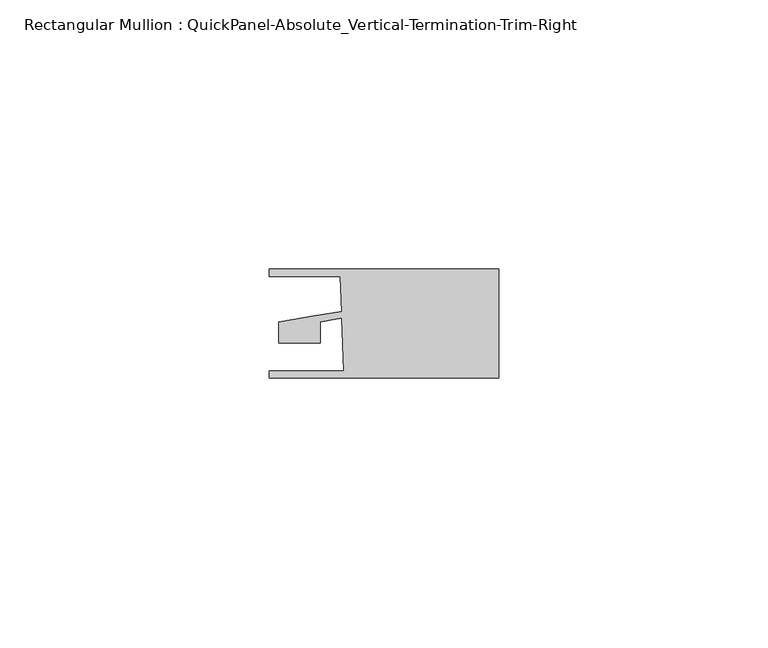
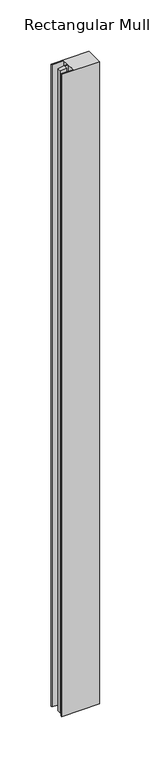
"""IFC4 building model written with IfcOpenShell, lengths in millimetres: member geometry, Rectangular Mullion : QuickPanel-Absolute_Vertical-Termination-Trim-Right."""

from ifc_helpers import new_model, si_unit, frame, origin, place, context, project, spatial, polyline, outline, extrude, source, transform, mapped, element, save


def rectangular_mullion_quickpanel_absolute_vertical_termination_4b9c5ec9(model_context):
    return source(origin(), model_context, "Body", "SweptSolid", [
        extrude(outline(polyline([(-42.7011763, 8.095605), (0.0, 8.095605), (0.0, -12.1803727), (-42.7011763, -12.1803727), (-42.7011763, -10.9303752), (-28.8448229, -10.9303752), (-29.1887499, -1.0815922), (-33.1743189, -1.7648465), (-33.1743189, -5.6493034), (-40.919092, -5.6493034), (-40.919092, -1.8040245), (-34.4837593, -0.7008023), (-29.2334784, 0.1992641), (-29.4602636, 6.6935423), (-42.7011763, 6.6935423), (-42.7011763, 8.095605)])), frame((0.0, 0.0, -762.0), z_axis=(0.0, 0.0, 1.0), x_axis=(1.0, 0.0, 0.0)), (0.0, 0.0, 1.0), 762.0),
    ])


if __name__ == "__main__":
    model = new_model("IFC4")
    model_context = context("Model", 3, world=origin())
    ifc_project = project(units=[si_unit("LENGTHUNIT", "METRE", prefix="MILLI")], contexts=[model_context])
    site = spatial("IfcSite", under=ifc_project)
    building = spatial("IfcBuilding", under=site)
    placement = place(None, origin())
    rectangular_mullion_quickpanel_absolute_vertical_termination_shape = rectangular_mullion_quickpanel_absolute_vertical_termination_4b9c5ec9(model_context)
    element("IfcMember", 1, ObjectType="Rectangular Mullion : QuickPanel-Absolute_Vertical-Termination-Trim-Right", at=placement, inside=building, context=model_context, shape_type="MappedRepresentation", body=[
        mapped(rectangular_mullion_quickpanel_absolute_vertical_termination_shape, transform((0.0, 0.0, 0.0), x_axis=(1.0, 0.0, 0.0), y_axis=(0.0, 1.0, 0.0), z_axis=(0.0, 0.0, 1.0))),
    ])
    save(model, "model.ifc")
